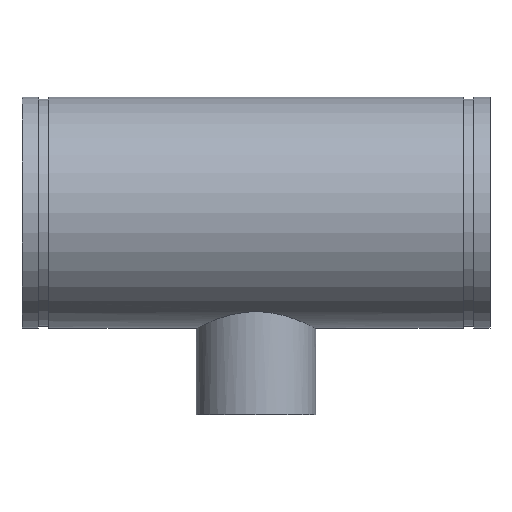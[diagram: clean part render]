
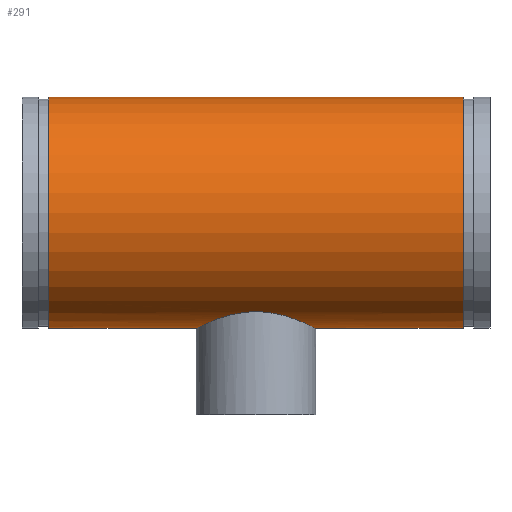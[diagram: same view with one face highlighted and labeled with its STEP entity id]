
A CAD part, top view. The second image highlights one B-rep face of the part: STEP entity #291.
In plain terms, the highlighted cylindrical face has radius 136.525 mm (diameter 273.05 mm), a full revolution.
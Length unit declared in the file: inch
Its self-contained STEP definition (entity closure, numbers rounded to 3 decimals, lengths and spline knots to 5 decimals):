
#45=B_SPLINE_CURVE_WITH_KNOTS('',3,(#511,#512,#513,#514,#515,#516,#517,
#518,#519,#520,#521,#522,#523,#524,#525,#526,#527,#528,#529,#530,#531,#532,
#533,#534,#535,#536,#537,#538,#539,#540,#541,#542,#543,#544,#545,#546,#547,
#548,#549,#550,#551,#552,#553,#554,#555,#556,#557,#558,#559,#560),
 .UNSPECIFIED.,.F.,.F.,(4,2,2,2,2,2,2,2,2,2,2,2,2,2,2,2,2,2,2,2,2,2,2,2,
4),(0.,1.3623,2.72459,4.08689,5.44918,
6.80713,8.16508,9.52303,10.88097,12.23892,
13.59687,14.95481,16.31276,17.67506,19.03735,
20.39965,21.76195,23.12424,24.48654,25.84883,
27.21113,28.56908,29.92702,31.28497,32.64292),
 .UNSPECIFIED.);
#46=B_SPLINE_CURVE_WITH_KNOTS('',3,(#561,#562,#563,#564,#565,#566,#567,
#568,#569,#570,#571,#572,#573,#574,#575,#576,#577,#578),.UNSPECIFIED.,.F.,
 .F.,(4,2,2,2,2,2,2,2,4),(32.64292,34.00086,35.35881,
36.71676,38.07471,39.437,40.7993,42.16159,
43.52389),.UNSPECIFIED.);
#51=LINE('',#508,#59);
#59=VECTOR('',#410,5.375);
#67=CYLINDRICAL_SURFACE('',#338,5.375);
#77=FACE_BOUND('',#108,.T.);
#88=FACE_OUTER_BOUND('',#107,.T.);
#107=EDGE_LOOP('',(#221,#222,#223,#224));
#108=EDGE_LOOP('',(#225,#226));
#121=CIRCLE('',#321,5.375);
#132=CIRCLE('',#337,5.375);
#141=VERTEX_POINT('',#476);
#152=VERTEX_POINT('',#505);
#153=VERTEX_POINT('',#509);
#154=VERTEX_POINT('',#510);
#165=EDGE_CURVE('',#141,#141,#121,.T.);
#178=EDGE_CURVE('',#152,#152,#132,.T.);
#179=EDGE_CURVE('',#152,#141,#51,.T.);
#180=EDGE_CURVE('',#153,#154,#45,.T.);
#181=EDGE_CURVE('',#154,#153,#46,.T.);
#221=ORIENTED_EDGE('',*,*,#178,.T.);
#222=ORIENTED_EDGE('',*,*,#179,.T.);
#223=ORIENTED_EDGE('',*,*,#165,.T.);
#224=ORIENTED_EDGE('',*,*,#179,.F.);
#225=ORIENTED_EDGE('',*,*,#180,.F.);
#226=ORIENTED_EDGE('',*,*,#181,.F.);
#291=ADVANCED_FACE('',(#88,#77),#67,.T.);
#321=AXIS2_PLACEMENT_3D('',#477,#372,#373);
#337=AXIS2_PLACEMENT_3D('',#506,#406,#407);
#338=AXIS2_PLACEMENT_3D('',#507,#408,#409);
#372=DIRECTION('center_axis',(-1.,0.,0.));
#373=DIRECTION('ref_axis',(0.,-1.,0.));
#406=DIRECTION('center_axis',(1.,0.,0.));
#407=DIRECTION('ref_axis',(0.,-1.,0.));
#408=DIRECTION('center_axis',(-1.,0.,0.));
#409=DIRECTION('ref_axis',(0.,-1.,0.));
#410=DIRECTION('',(1.,0.,0.));
#476=CARTESIAN_POINT('',(9.63,5.375,0.));
#477=CARTESIAN_POINT('Origin',(9.63,0.,0.));
#505=CARTESIAN_POINT('',(-9.63,5.375,0.));
#506=CARTESIAN_POINT('Origin',(-9.63,0.,0.));
#507=CARTESIAN_POINT('Origin',(10.88,0.,0.));
#508=CARTESIAN_POINT('',(10.88,5.375,0.));
#509=CARTESIAN_POINT('',(0.,-4.59934,-2.7815));
#510=CARTESIAN_POINT('',(-2.7815,-5.375,0.));
#511=CARTESIAN_POINT('Ctrl Pts',(0.,-4.59934,
-2.7815));
#512=CARTESIAN_POINT('Ctrl Pts',(0.17878,-4.59934,-2.7815));
#513=CARTESIAN_POINT('Ctrl Pts',(0.3622,-4.61007,-2.76399));
#514=CARTESIAN_POINT('Ctrl Pts',(0.72448,-4.65257,-2.69184));
#515=CARTESIAN_POINT('Ctrl Pts',(0.90335,-4.68426,-2.63722));
#516=CARTESIAN_POINT('Ctrl Pts',(1.24456,-4.76185,-2.4944));
#517=CARTESIAN_POINT('Ctrl Pts',(1.40724,-4.8077,-2.40608));
#518=CARTESIAN_POINT('Ctrl Pts',(1.70747,-4.90399,-2.20321));
#519=CARTESIAN_POINT('Ctrl Pts',(1.84502,-4.95434,-2.08861));
#520=CARTESIAN_POINT('Ctrl Pts',(2.08822,-5.04996,-1.84541));
#521=CARTESIAN_POINT('Ctrl Pts',(2.20276,-5.0988,-1.70805));
#522=CARTESIAN_POINT('Ctrl Pts',(2.40579,-5.18975,-1.40775));
#523=CARTESIAN_POINT('Ctrl Pts',(2.4943,-5.23178,-1.2448));
#524=CARTESIAN_POINT('Ctrl Pts',(2.63735,-5.30147,-0.90301));
#525=CARTESIAN_POINT('Ctrl Pts',(2.69201,-5.32915,-0.72385));
#526=CARTESIAN_POINT('Ctrl Pts',(2.7641,-5.36593,-0.36145));
#527=CARTESIAN_POINT('Ctrl Pts',(2.7815,-5.375,-0.17821));
#528=CARTESIAN_POINT('Ctrl Pts',(2.7815,-5.375,0.17821));
#529=CARTESIAN_POINT('Ctrl Pts',(2.7641,-5.36593,0.36145));
#530=CARTESIAN_POINT('Ctrl Pts',(2.69201,-5.32915,0.72385));
#531=CARTESIAN_POINT('Ctrl Pts',(2.63735,-5.30147,0.90301));
#532=CARTESIAN_POINT('Ctrl Pts',(2.4943,-5.23178,1.2448));
#533=CARTESIAN_POINT('Ctrl Pts',(2.40579,-5.18975,1.40775));
#534=CARTESIAN_POINT('Ctrl Pts',(2.20276,-5.0988,1.70805));
#535=CARTESIAN_POINT('Ctrl Pts',(2.08822,-5.04996,1.84541));
#536=CARTESIAN_POINT('Ctrl Pts',(1.84502,-4.95434,2.08861));
#537=CARTESIAN_POINT('Ctrl Pts',(1.70747,-4.90399,2.20321));
#538=CARTESIAN_POINT('Ctrl Pts',(1.40724,-4.8077,2.40608));
#539=CARTESIAN_POINT('Ctrl Pts',(1.24456,-4.76185,2.4944));
#540=CARTESIAN_POINT('Ctrl Pts',(0.90335,-4.68426,2.63722));
#541=CARTESIAN_POINT('Ctrl Pts',(0.72448,-4.65257,2.69184));
#542=CARTESIAN_POINT('Ctrl Pts',(0.3622,-4.61007,2.76399));
#543=CARTESIAN_POINT('Ctrl Pts',(0.17878,-4.59934,2.7815));
#544=CARTESIAN_POINT('Ctrl Pts',(-0.17878,-4.59934,2.7815));
#545=CARTESIAN_POINT('Ctrl Pts',(-0.3622,-4.61007,2.76399));
#546=CARTESIAN_POINT('Ctrl Pts',(-0.72448,-4.65257,2.69184));
#547=CARTESIAN_POINT('Ctrl Pts',(-0.90335,-4.68426,2.63722));
#548=CARTESIAN_POINT('Ctrl Pts',(-1.24456,-4.76185,2.4944));
#549=CARTESIAN_POINT('Ctrl Pts',(-1.40724,-4.8077,2.40608));
#550=CARTESIAN_POINT('Ctrl Pts',(-1.70747,-4.90399,2.20321));
#551=CARTESIAN_POINT('Ctrl Pts',(-1.84502,-4.95434,2.08861));
#552=CARTESIAN_POINT('Ctrl Pts',(-2.08822,-5.04996,1.84541));
#553=CARTESIAN_POINT('Ctrl Pts',(-2.20276,-5.0988,1.70805));
#554=CARTESIAN_POINT('Ctrl Pts',(-2.40579,-5.18975,1.40775));
#555=CARTESIAN_POINT('Ctrl Pts',(-2.4943,-5.23178,1.2448));
#556=CARTESIAN_POINT('Ctrl Pts',(-2.63735,-5.30147,0.90301));
#557=CARTESIAN_POINT('Ctrl Pts',(-2.69201,-5.32915,0.72385));
#558=CARTESIAN_POINT('Ctrl Pts',(-2.7641,-5.36593,0.36145));
#559=CARTESIAN_POINT('Ctrl Pts',(-2.7815,-5.375,0.17821));
#560=CARTESIAN_POINT('Ctrl Pts',(-2.7815,-5.375,0.));
#561=CARTESIAN_POINT('Ctrl Pts',(-2.7815,-5.375,0.));
#562=CARTESIAN_POINT('Ctrl Pts',(-2.7815,-5.375,-0.17821));
#563=CARTESIAN_POINT('Ctrl Pts',(-2.7641,-5.36593,-0.36145));
#564=CARTESIAN_POINT('Ctrl Pts',(-2.69201,-5.32915,-0.72385));
#565=CARTESIAN_POINT('Ctrl Pts',(-2.63735,-5.30147,-0.90301));
#566=CARTESIAN_POINT('Ctrl Pts',(-2.4943,-5.23178,-1.2448));
#567=CARTESIAN_POINT('Ctrl Pts',(-2.40579,-5.18975,-1.40775));
#568=CARTESIAN_POINT('Ctrl Pts',(-2.20276,-5.0988,-1.70805));
#569=CARTESIAN_POINT('Ctrl Pts',(-2.08822,-5.04996,-1.84541));
#570=CARTESIAN_POINT('Ctrl Pts',(-1.84502,-4.95434,-2.08861));
#571=CARTESIAN_POINT('Ctrl Pts',(-1.70747,-4.90399,-2.20321));
#572=CARTESIAN_POINT('Ctrl Pts',(-1.40724,-4.8077,-2.40608));
#573=CARTESIAN_POINT('Ctrl Pts',(-1.24456,-4.76185,-2.4944));
#574=CARTESIAN_POINT('Ctrl Pts',(-0.90335,-4.68426,-2.63722));
#575=CARTESIAN_POINT('Ctrl Pts',(-0.72448,-4.65257,-2.69184));
#576=CARTESIAN_POINT('Ctrl Pts',(-0.3622,-4.61007,-2.76399));
#577=CARTESIAN_POINT('Ctrl Pts',(-0.17878,-4.59934,-2.7815));
#578=CARTESIAN_POINT('Ctrl Pts',(0.,-4.59934,
-2.7815));
